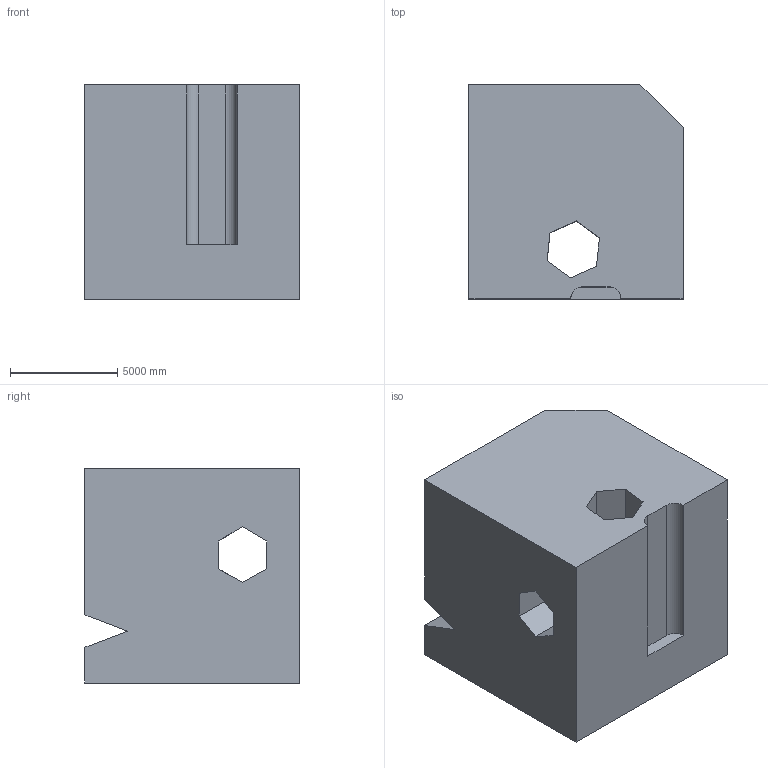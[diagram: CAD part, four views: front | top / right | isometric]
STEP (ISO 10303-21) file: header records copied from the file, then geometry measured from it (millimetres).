
FILE_DESCRIPTION (( 'STEP AP203' ), '1' );
FILE_NAME ('491.STEP', '2022-07-29T11:29:43', ( 'user' ), ( '' ), 'SwSTEP 2.0', 'SolidWorks 2021', '' );
FILE_SCHEMA (( 'CONFIG_CONTROL_DESIGN' ));
Length unit declared in the file: centimetre
Products named in the file (1): 491
Bounding box: 10000 x 10000 x 10000 mm (x, y, z)
Volume: 876130255387.7 mm3; surface area: 728228262.7 mm2
Topology: 1 solids, 1 shells, 33 faces, 99 edges, 66 vertices
Faces by surface type: plane 31, cylinder 2
Entity records: 1186 total; most frequent: CARTESIAN_POINT 199, ORIENTED_EDGE 198, DIRECTION 171, EDGE_CURVE 99, VECTOR 95, LINE 95, VERTEX_POINT 66, AXIS2_PLACEMENT_3D 38
